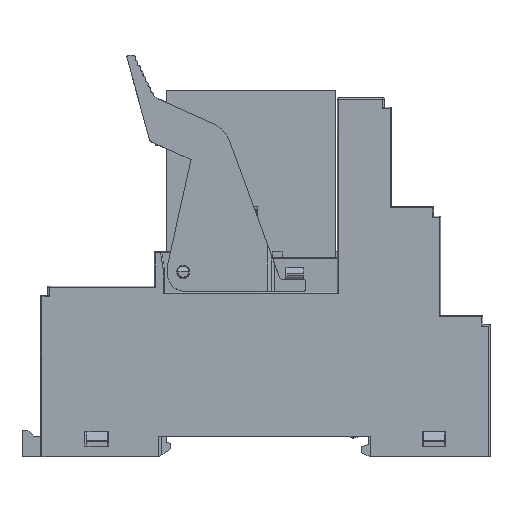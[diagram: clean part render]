
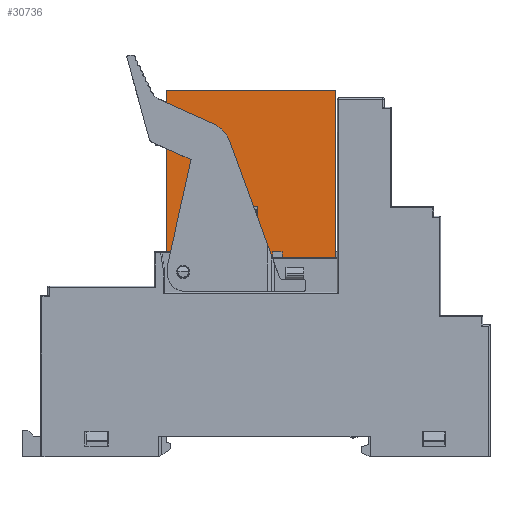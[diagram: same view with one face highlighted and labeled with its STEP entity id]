
A CAD part, top view. The second image highlights one B-rep face of the part: STEP entity #30736.
In plain terms, the highlighted planar face has unit normal (0, 0, 1).
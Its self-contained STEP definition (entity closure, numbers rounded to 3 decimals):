
#544 = VERTEX_POINT ( 'NONE', #31286 ) ;
#1545 = DIRECTION ( 'NONE',  ( 0., 1., 0. ) ) ;
#2073 = CARTESIAN_POINT ( 'NONE',  ( 1.405, 2.915, 6.3 ) ) ;
#2357 = PLANE ( 'NONE',  #10395 ) ;
#2587 = EDGE_CURVE ( 'NONE', #6087, #27842, #2858, .T. ) ;
#2858 = LINE ( 'NONE', #10893, #30835 ) ;
#2972 = ORIENTED_EDGE ( 'NONE', *, *, #6692, .F. ) ;
#3208 = EDGE_CURVE ( 'NONE', #27842, #45211, #6656, .T. ) ;
#3413 = VECTOR ( 'NONE', #36634, 1000. ) ;
#3540 = CARTESIAN_POINT ( 'NONE',  ( 5.405, 3.715, 6.3 ) ) ;
#3574 = EDGE_LOOP ( 'NONE', ( #20551, #20527, #17739, #44204 ) ) ;
#3599 = VERTEX_POINT ( 'NONE', #45464 ) ;
#3730 = VERTEX_POINT ( 'NONE', #39565 ) ;
#3844 = CARTESIAN_POINT ( 'NONE',  ( 5.505, 5.515, 6.3 ) ) ;
#3944 = VERTEX_POINT ( 'NONE', #23094 ) ;
#4071 = VERTEX_POINT ( 'NONE', #40765 ) ;
#4198 = CARTESIAN_POINT ( 'NONE',  ( 1.405, 3.715, 6.3 ) ) ;
#4466 = CARTESIAN_POINT ( 'NONE',  ( 9.605, -0.985, 6.3 ) ) ;
#4689 = VECTOR ( 'NONE', #12256, 1000. ) ;
#4695 = DIRECTION ( 'NONE',  ( -1., 0., 0. ) ) ;
#4702 = ORIENTED_EDGE ( 'NONE', *, *, #16539, .F. ) ;
#5161 = EDGE_CURVE ( 'NONE', #3599, #4071, #20787, .T. ) ;
#5377 = ORIENTED_EDGE ( 'NONE', *, *, #12637, .F. ) ;
#5703 = VECTOR ( 'NONE', #13286, 1000. ) ;
#6027 = CARTESIAN_POINT ( 'NONE',  ( 18.705, -0.985, 6.3 ) ) ;
#6087 = VERTEX_POINT ( 'NONE', #6027 ) ;
#6234 = VERTEX_POINT ( 'NONE', #6929 ) ;
#6358 = LINE ( 'NONE', #27073, #42578 ) ;
#6656 = LINE ( 'NONE', #29587, #24170 ) ;
#6692 = EDGE_CURVE ( 'NONE', #21419, #25184, #34933, .T. ) ;
#6929 = CARTESIAN_POINT ( 'NONE',  ( 8.005, -0.985, 6.3 ) ) ;
#7713 = DIRECTION ( 'NONE',  ( 0., -1., 0. ) ) ;
#9416 = DIRECTION ( 'NONE',  ( 0., 0., 1. ) ) ;
#9703 = VECTOR ( 'NONE', #14000, 1000. ) ;
#10395 = AXIS2_PLACEMENT_3D ( 'NONE', #30413, #9416, #33934 ) ;
#10713 = CARTESIAN_POINT ( 'NONE',  ( 1.305, 7.715, 6.3 ) ) ;
#10835 = CARTESIAN_POINT ( 'NONE',  ( 4.705, 0.015, 6.3 ) ) ;
#10893 = CARTESIAN_POINT ( 'NONE',  ( 18.705, -0.985, 6.3 ) ) ;
#11096 = LINE ( 'NONE', #15931, #29752 ) ;
#11870 = VECTOR ( 'NONE', #7713, 1000. ) ;
#12256 = DIRECTION ( 'NONE',  ( 0., 1., 0. ) ) ;
#12582 = LINE ( 'NONE', #18516, #38347 ) ;
#12637 = EDGE_CURVE ( 'NONE', #544, #21419, #24027, .T. ) ;
#13152 = FACE_OUTER_BOUND ( 'NONE', #42021, .T. ) ;
#13286 = DIRECTION ( 'NONE',  ( 1., 0., 0. ) ) ;
#13441 = EDGE_LOOP ( 'NONE', ( #5377, #31783, #29242, #2972 ) ) ;
#13837 = LINE ( 'NONE', #39894, #3413 ) ;
#14000 = DIRECTION ( 'NONE',  ( 0., -1., 0. ) ) ;
#15053 = ORIENTED_EDGE ( 'NONE', *, *, #38211, .F. ) ;
#15931 = CARTESIAN_POINT ( 'NONE',  ( 1.305, 7.715, 6.3 ) ) ;
#16134 = VERTEX_POINT ( 'NONE', #30797 ) ;
#16539 = EDGE_CURVE ( 'NONE', #45211, #16134, #23521, .T. ) ;
#16617 = VERTEX_POINT ( 'NONE', #2073 ) ;
#16654 = DIRECTION ( 'NONE',  ( -1., 0., 0. ) ) ;
#17739 = ORIENTED_EDGE ( 'NONE', *, *, #34156, .F. ) ;
#18516 = CARTESIAN_POINT ( 'NONE',  ( 8.005, -0.985, 6.3 ) ) ;
#18518 = EDGE_CURVE ( 'NONE', #3944, #16617, #39861, .T. ) ;
#19258 = CARTESIAN_POINT ( 'NONE',  ( 5.405, 2.915, 6.3 ) ) ;
#19641 = ORIENTED_EDGE ( 'NONE', *, *, #5161, .F. ) ;
#20200 = CARTESIAN_POINT ( 'NONE',  ( 5.505, 5.515, 6.3 ) ) ;
#20527 = ORIENTED_EDGE ( 'NONE', *, *, #18518, .F. ) ;
#20551 = ORIENTED_EDGE ( 'NONE', *, *, #39276, .F. ) ;
#20787 = LINE ( 'NONE', #44552, #29029 ) ;
#21311 = VECTOR ( 'NONE', #4695, 1000. ) ;
#21315 = EDGE_CURVE ( 'NONE', #40463, #44490, #31951, .T. ) ;
#21419 = VERTEX_POINT ( 'NONE', #3844 ) ;
#21433 = DIRECTION ( 'NONE',  ( -1., 0., 0. ) ) ;
#21469 = VECTOR ( 'NONE', #28151, 1000. ) ;
#22014 = DIRECTION ( 'NONE',  ( 0., 1., 0. ) ) ;
#22439 = FACE_BOUND ( 'NONE', #13441, .T. ) ;
#22935 = VECTOR ( 'NONE', #42246, 1000. ) ;
#23094 = CARTESIAN_POINT ( 'NONE',  ( 1.405, 3.715, 6.3 ) ) ;
#23117 = EDGE_CURVE ( 'NONE', #3730, #3599, #13837, .T. ) ;
#23521 = LINE ( 'NONE', #32743, #21311 ) ;
#23713 = VECTOR ( 'NONE', #28034, 1000. ) ;
#24027 = LINE ( 'NONE', #31768, #22935 ) ;
#24084 = EDGE_CURVE ( 'NONE', #25184, #40889, #44626, .T. ) ;
#24170 = VECTOR ( 'NONE', #1545, 1000. ) ;
#25184 = VERTEX_POINT ( 'NONE', #45487 ) ;
#26313 = ORIENTED_EDGE ( 'NONE', *, *, #23117, .F. ) ;
#27073 = CARTESIAN_POINT ( 'NONE',  ( 18.705, 3.715, 6.3 ) ) ;
#27300 = CARTESIAN_POINT ( 'NONE',  ( 8.005, -0.985, 6.3 ) ) ;
#27508 = CARTESIAN_POINT ( 'NONE',  ( 4.705, -0.985, 6.3 ) ) ;
#27663 = ORIENTED_EDGE ( 'NONE', *, *, #44170, .F. ) ;
#27842 = VERTEX_POINT ( 'NONE', #4466 ) ;
#28034 = DIRECTION ( 'NONE',  ( 0., 1., 0. ) ) ;
#28151 = DIRECTION ( 'NONE',  ( -1., 0., 0. ) ) ;
#29029 = VECTOR ( 'NONE', #40996, 1000. ) ;
#29109 = CARTESIAN_POINT ( 'NONE',  ( 5.405, 3.715, 6.3 ) ) ;
#29242 = ORIENTED_EDGE ( 'NONE', *, *, #24084, .F. ) ;
#29342 = ORIENTED_EDGE ( 'NONE', *, *, #37373, .F. ) ;
#29587 = CARTESIAN_POINT ( 'NONE',  ( 9.605, -0.985, 6.3 ) ) ;
#29752 = VECTOR ( 'NONE', #40508, 1000. ) ;
#29878 = ORIENTED_EDGE ( 'NONE', *, *, #3208, .F. ) ;
#30413 = CARTESIAN_POINT ( 'NONE',  ( 18.705, 3.715, 6.3 ) ) ;
#30736 = ADVANCED_FACE ( 'NONE', ( #13152, #31793, #22439 ), #2357, .T. ) ;
#30797 = CARTESIAN_POINT ( 'NONE',  ( 8.005, 0.015, 6.3 ) ) ;
#30835 = VECTOR ( 'NONE', #21433, 1000. ) ;
#30967 = VECTOR ( 'NONE', #45370, 1000. ) ;
#31286 = CARTESIAN_POINT ( 'NONE',  ( 1.305, 5.515, 6.3 ) ) ;
#31451 = LINE ( 'NONE', #34270, #5703 ) ;
#31768 = CARTESIAN_POINT ( 'NONE',  ( 1.305, 5.515, 6.3 ) ) ;
#31783 = ORIENTED_EDGE ( 'NONE', *, *, #40046, .F. ) ;
#31793 = FACE_BOUND ( 'NONE', #3574, .T. ) ;
#31873 = VECTOR ( 'NONE', #34356, 1000. ) ;
#31951 = LINE ( 'NONE', #3540, #23713 ) ;
#32743 = CARTESIAN_POINT ( 'NONE',  ( 18.705, 0.015, 6.3 ) ) ;
#33124 = ORIENTED_EDGE ( 'NONE', *, *, #34659, .F. ) ;
#33232 = CARTESIAN_POINT ( 'NONE',  ( 4.705, -0.985, 6.3 ) ) ;
#33934 = DIRECTION ( 'NONE',  ( 0., -1., 0. ) ) ;
#34156 = EDGE_CURVE ( 'NONE', #44490, #3944, #6358, .T. ) ;
#34270 = CARTESIAN_POINT ( 'NONE',  ( 1.405, 2.915, 6.3 ) ) ;
#34356 = DIRECTION ( 'NONE',  ( -1., 0., 0. ) ) ;
#34659 = EDGE_CURVE ( 'NONE', #35486, #3730, #39221, .T. ) ;
#34856 = CARTESIAN_POINT ( 'NONE',  ( 18.705, 0.015, 6.3 ) ) ;
#34933 = LINE ( 'NONE', #20200, #42124 ) ;
#34988 = CARTESIAN_POINT ( 'NONE',  ( 18.705, 0.015, 6.3 ) ) ;
#35369 = ORIENTED_EDGE ( 'NONE', *, *, #2587, .F. ) ;
#35486 = VERTEX_POINT ( 'NONE', #10835 ) ;
#36634 = DIRECTION ( 'NONE',  ( 0., 1., 0. ) ) ;
#37373 = EDGE_CURVE ( 'NONE', #4071, #6087, #38788, .T. ) ;
#38094 = ORIENTED_EDGE ( 'NONE', *, *, #42185, .T. ) ;
#38211 = EDGE_CURVE ( 'NONE', #40684, #35486, #40912, .T. ) ;
#38347 = VECTOR ( 'NONE', #22014, 1000. ) ;
#38788 = LINE ( 'NONE', #34988, #9703 ) ;
#39221 = LINE ( 'NONE', #34856, #30967 ) ;
#39276 = EDGE_CURVE ( 'NONE', #16617, #40463, #31451, .T. ) ;
#39565 = CARTESIAN_POINT ( 'NONE',  ( -10.095, 0.015, 6.3 ) ) ;
#39861 = LINE ( 'NONE', #4198, #11870 ) ;
#39894 = CARTESIAN_POINT ( 'NONE',  ( -10.095, 0.015, 6.3 ) ) ;
#40046 = EDGE_CURVE ( 'NONE', #40889, #544, #11096, .T. ) ;
#40463 = VERTEX_POINT ( 'NONE', #19258 ) ;
#40508 = DIRECTION ( 'NONE',  ( 0., -1., 0. ) ) ;
#40684 = VERTEX_POINT ( 'NONE', #27508 ) ;
#40728 = CARTESIAN_POINT ( 'NONE',  ( 9.605, 0.015, 6.3 ) ) ;
#40765 = CARTESIAN_POINT ( 'NONE',  ( 18.705, 27.515, 6.3 ) ) ;
#40889 = VERTEX_POINT ( 'NONE', #44330 ) ;
#40912 = LINE ( 'NONE', #33232, #4689 ) ;
#40996 = DIRECTION ( 'NONE',  ( 1., 0., 0. ) ) ;
#41261 = DIRECTION ( 'NONE',  ( 0., 1., 0. ) ) ;
#42021 = EDGE_LOOP ( 'NONE', ( #29342, #19641, #26313, #33124, #15053, #27663, #38094, #4702, #29878, #35369 ) ) ;
#42124 = VECTOR ( 'NONE', #41261, 1000. ) ;
#42185 = EDGE_CURVE ( 'NONE', #6234, #16134, #12582, .T. ) ;
#42246 = DIRECTION ( 'NONE',  ( 1., 0., 0. ) ) ;
#42345 = LINE ( 'NONE', #27300, #31873 ) ;
#42578 = VECTOR ( 'NONE', #16654, 1000. ) ;
#44170 = EDGE_CURVE ( 'NONE', #6234, #40684, #42345, .T. ) ;
#44204 = ORIENTED_EDGE ( 'NONE', *, *, #21315, .F. ) ;
#44330 = CARTESIAN_POINT ( 'NONE',  ( 1.305, 7.715, 6.3 ) ) ;
#44490 = VERTEX_POINT ( 'NONE', #29109 ) ;
#44552 = CARTESIAN_POINT ( 'NONE',  ( -10.095, 27.515, 6.3 ) ) ;
#44626 = LINE ( 'NONE', #10713, #21469 ) ;
#45211 = VERTEX_POINT ( 'NONE', #40728 ) ;
#45370 = DIRECTION ( 'NONE',  ( -1., 0., 0. ) ) ;
#45464 = CARTESIAN_POINT ( 'NONE',  ( -10.095, 27.515, 6.3 ) ) ;
#45487 = CARTESIAN_POINT ( 'NONE',  ( 5.505, 7.715, 6.3 ) ) ;
